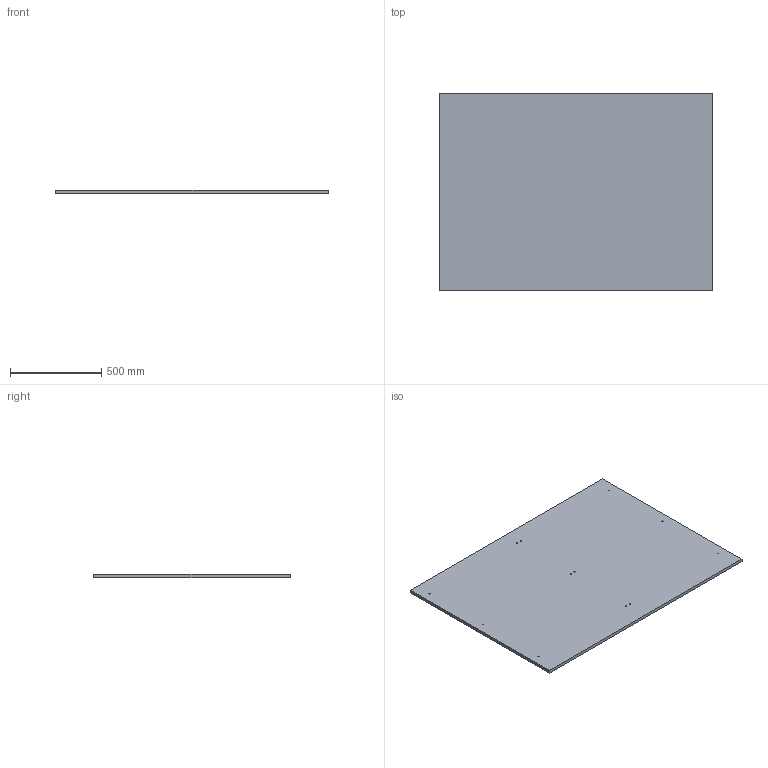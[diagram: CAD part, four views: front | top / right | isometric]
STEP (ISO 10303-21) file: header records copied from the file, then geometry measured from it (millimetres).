
FILE_DESCRIPTION (( 'STEP AP214' ), '1' );
FILE_NAME ('PANTI0119.STEP', '2025-01-23T13:20:34', ( '' ), ( '' ), 'SwSTEP 2.0', 'SolidWorks 2022', '' );
FILE_SCHEMA (( 'AUTOMOTIVE_DESIGN' ));
Length unit declared in the file: millimetre
Products named in the file (1): PANTI0119
Bounding box: 1496 x 1078 x 18 mm (x, y, z)
Volume: 29018149.3 mm3; surface area: 3322373.5 mm2
Topology: 1 solids, 1 shells, 78 faces, 180 edges, 92 vertices
Faces by surface type: cone 48, cylinder 24, plane 6
Entity records: 2038 total; most frequent: DIRECTION 386, CARTESIAN_POINT 327, ORIENTED_EDGE 312, EDGE_CURVE 156, AXIS2_PLACEMENT_3D 151, VERTEX_POINT 92, EDGE_LOOP 90, LINE 84
